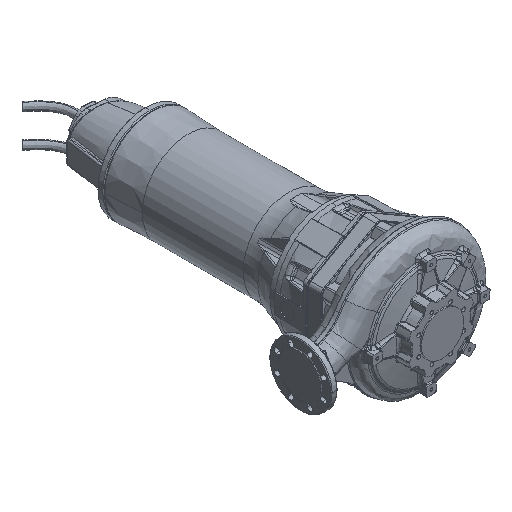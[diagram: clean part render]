
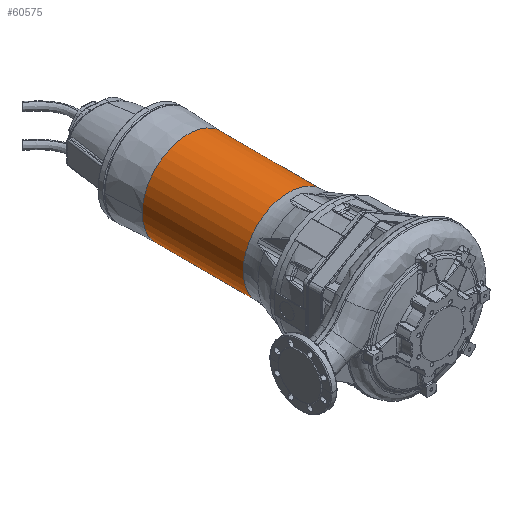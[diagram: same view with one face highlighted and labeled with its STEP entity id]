
A CAD part, isometric view. The second image highlights one B-rep face of the part: STEP entity #60575.
In plain terms, the highlighted cylindrical face has radius 169 mm (diameter 338 mm), a partial arc.
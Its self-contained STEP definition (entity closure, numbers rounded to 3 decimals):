
#4782 = DIRECTION ( 'NONE',  ( 0., -1., 0. ) ) ;
#8434 = EDGE_CURVE ( 'NONE', #77096, #37093, #56873, .T. ) ;
#9436 = DIRECTION ( 'NONE',  ( 1., 0., 0. ) ) ;
#13070 = AXIS2_PLACEMENT_3D ( 'NONE', #147620, #78554, #9436 ) ;
#13926 = VECTOR ( 'NONE', #89431, 1000. ) ;
#17075 = ORIENTED_EDGE ( 'NONE', *, *, #104488, .F. ) ;
#30536 = ORIENTED_EDGE ( 'NONE', *, *, #86362, .F. ) ;
#37093 = VERTEX_POINT ( 'NONE', #130499 ) ;
#38807 = CIRCLE ( 'NONE', #134095, 169. ) ;
#39894 = CIRCLE ( 'NONE', #136935, 169. ) ;
#41036 = CARTESIAN_POINT ( 'NONE',  ( -169., 30.945, 0. ) ) ;
#46325 = VERTEX_POINT ( 'NONE', #139504 ) ;
#50388 = DIRECTION ( 'NONE',  ( 0., -1., 0. ) ) ;
#50618 = VERTEX_POINT ( 'NONE', #81189 ) ;
#53764 = EDGE_CURVE ( 'NONE', #137837, #46325, #102335, .T. ) ;
#54670 = DIRECTION ( 'NONE',  ( 0., -1., 0. ) ) ;
#56873 = LINE ( 'NONE', #138632, #148899 ) ;
#60575 = ADVANCED_FACE ( 'NONE', ( #128080 ), #144238, .T. ) ;
#72997 = CARTESIAN_POINT ( 'NONE',  ( 161.24, 404.577, -50.623 ) ) ;
#73900 = CARTESIAN_POINT ( 'NONE',  ( 0., 30.945, 0. ) ) ;
#77096 = VERTEX_POINT ( 'NONE', #72997 ) ;
#78554 = DIRECTION ( 'NONE',  ( 0., -1., 0. ) ) ;
#79805 = EDGE_CURVE ( 'NONE', #137837, #50618, #38807, .T. ) ;
#81189 = CARTESIAN_POINT ( 'NONE',  ( -169., 404.577, 0. ) ) ;
#85422 = DIRECTION ( 'NONE',  ( 1., 0., 0. ) ) ;
#86362 = EDGE_CURVE ( 'NONE', #46325, #105603, #39894, .T. ) ;
#89431 = DIRECTION ( 'NONE',  ( 0., -1., 0. ) ) ;
#90430 = CARTESIAN_POINT ( 'NONE',  ( 161.24, 542.001, 50.623 ) ) ;
#99829 = ORIENTED_EDGE ( 'NONE', *, *, #109853, .T. ) ;
#102335 = LINE ( 'NONE', #90430, #13926 ) ;
#104488 = EDGE_CURVE ( 'NONE', #105603, #37093, #110249, .T. ) ;
#104840 = DIRECTION ( 'NONE',  ( 0., -1., 0. ) ) ;
#105603 = VERTEX_POINT ( 'NONE', #41036 ) ;
#109853 = EDGE_CURVE ( 'NONE', #50618, #77096, #112505, .T. ) ;
#110158 = AXIS2_PLACEMENT_3D ( 'NONE', #123014, #110364, #111866 ) ;
#110249 = CIRCLE ( 'NONE', #123587, 169. ) ;
#110364 = DIRECTION ( 'NONE',  ( 0., -1., 0. ) ) ;
#111866 = DIRECTION ( 'NONE',  ( 1., 0., 0. ) ) ;
#112505 = CIRCLE ( 'NONE', #13070, 169. ) ;
#119488 = CARTESIAN_POINT ( 'NONE',  ( 0., 30.945, 0. ) ) ;
#123014 = CARTESIAN_POINT ( 'NONE',  ( 0., -117.177, 0. ) ) ;
#123587 = AXIS2_PLACEMENT_3D ( 'NONE', #119488, #50388, #131085 ) ;
#123776 = CARTESIAN_POINT ( 'NONE',  ( 0., 404.577, 0. ) ) ;
#125913 = ORIENTED_EDGE ( 'NONE', *, *, #8434, .T. ) ;
#127186 = CARTESIAN_POINT ( 'NONE',  ( 161.24, 404.577, 50.623 ) ) ;
#128080 = FACE_OUTER_BOUND ( 'NONE', #137377, .T. ) ;
#130499 = CARTESIAN_POINT ( 'NONE',  ( 161.24, 30.945, -50.623 ) ) ;
#131085 = DIRECTION ( 'NONE',  ( 1., 0., 0. ) ) ;
#134095 = AXIS2_PLACEMENT_3D ( 'NONE', #123776, #54670, #135375 ) ;
#135375 = DIRECTION ( 'NONE',  ( 1., 0., 0. ) ) ;
#136935 = AXIS2_PLACEMENT_3D ( 'NONE', #73900, #4782, #85422 ) ;
#137377 = EDGE_LOOP ( 'NONE', ( #30536, #148900, #146302, #99829, #125913, #17075 ) ) ;
#137837 = VERTEX_POINT ( 'NONE', #127186 ) ;
#138632 = CARTESIAN_POINT ( 'NONE',  ( 161.24, 542.001, -50.623 ) ) ;
#139504 = CARTESIAN_POINT ( 'NONE',  ( 161.24, 30.945, 50.623 ) ) ;
#144238 = CYLINDRICAL_SURFACE ( 'NONE', #110158, 169. ) ;
#146302 = ORIENTED_EDGE ( 'NONE', *, *, #79805, .T. ) ;
#147620 = CARTESIAN_POINT ( 'NONE',  ( 0., 404.577, 0. ) ) ;
#148899 = VECTOR ( 'NONE', #104840, 1000. ) ;
#148900 = ORIENTED_EDGE ( 'NONE', *, *, #53764, .F. ) ;
